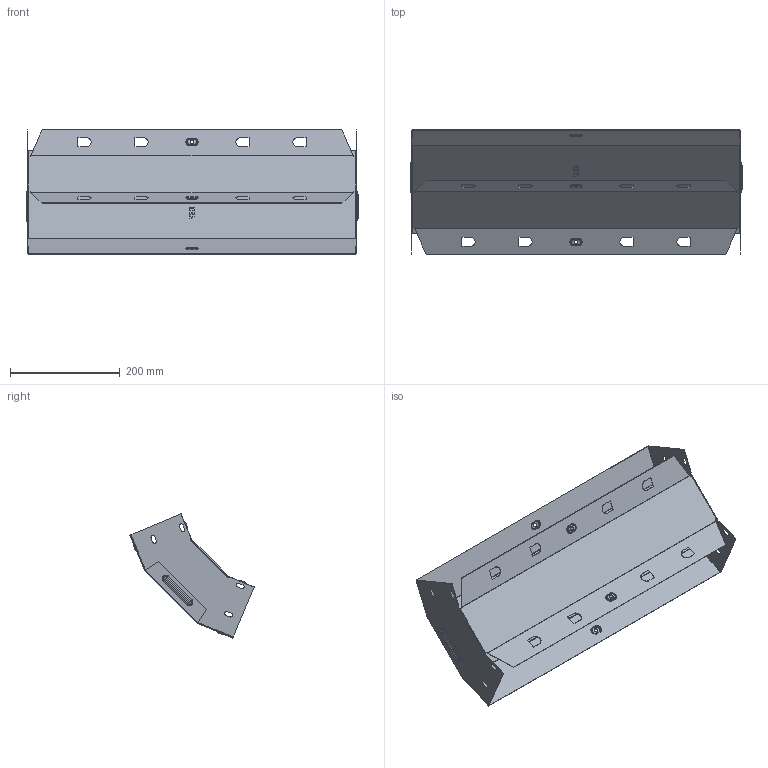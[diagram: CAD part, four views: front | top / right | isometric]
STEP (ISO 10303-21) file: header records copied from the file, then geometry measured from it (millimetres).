
FILE_DESCRIPTION (( 'STEP AP214' ), '1' );
FILE_NAME ('vo45100600_捘.STEP', '2019-06-10T08:16:45', ( '砐錪賧瘔蠈錪 Windows' ), ( '' ), 'SwSTEP 2.0', 'SolidWorks 2018', '' );
FILE_SCHEMA (( 'AUTOMOTIVE_DESIGN' ));
Length unit declared in the file: millimetre
Products named in the file (1): vo45100600_捘
Bounding box: 605.6 x 226.34 x 226.34 mm (x, y, z)
Volume: 263944.3 mm3; surface area: 664136.5 mm2
Topology: 2 solids, 2 shells, 404 faces, 1014 edges, 636 vertices
Faces by surface type: plane 197, cylinder 126, torus 64, bspline 17
Entity records: 12726 total; most frequent: CARTESIAN_POINT 2819, DIRECTION 2072, ORIENTED_EDGE 2028, EDGE_CURVE 1014, AXIS2_PLACEMENT_3D 720, VERTEX_POINT 636, LINE 632, VECTOR 632
